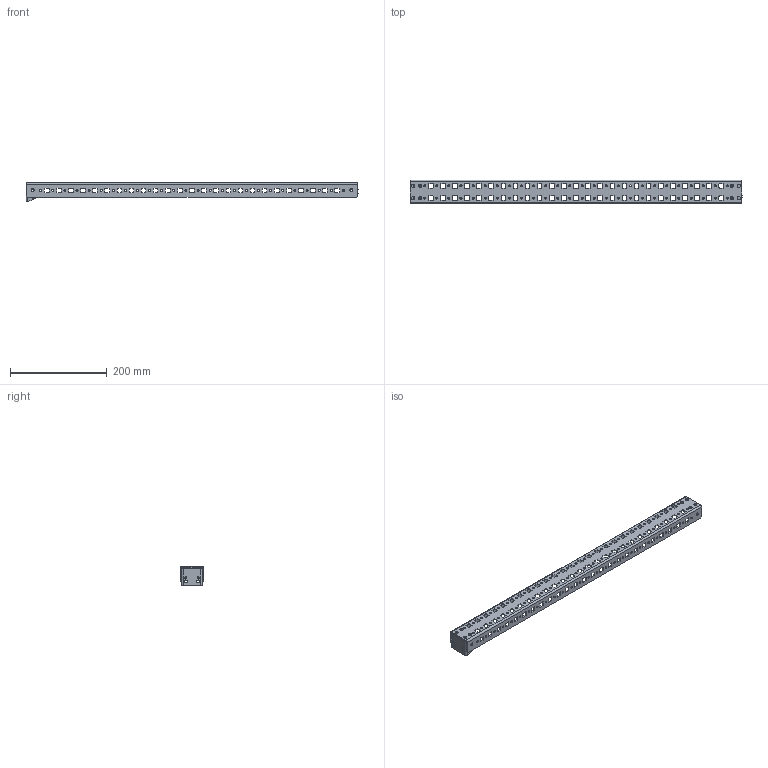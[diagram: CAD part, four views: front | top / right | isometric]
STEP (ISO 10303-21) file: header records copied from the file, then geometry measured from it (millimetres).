
FILE_DESCRIPTION(('STEP AP203'), '1');
FILE_NAME('MG 80.06 L Ðåéêà ìîíòàæíàÿ v2', '2021-05-20T09:11:11', ('UNSPECIFIED'), ('UNSPECIFIED'), 'ASCON STEP Converter 1.3', 'ASCON Math Kernel', '');
FILE_SCHEMA(('CONFIG_CONTROL_DESIGN'));
Length unit declared in the file: millimetre
Products named in the file (3): MG 80.06 L 01.001 Ðåéêà ìîíòàæíàÿ v2; MG 06 L 01.002 Êðîíøòåéí ðåéêè ìîíòàæíîé v2
Assembly tree (3 placements, depth 2):
  (unnamed)
    MG 80.06 L 01.001 Ðåéêà ìîíòàæíàÿ v2
    MG 06 L 01.002 Êðîíøòåéí ðåéêè ìîíòàæíîé v2  x2
Bounding box: 685.55 x 49.15 x 39 mm (x, y, z)
Volume: 133696.3 mm3; surface area: 149610 mm2
Topology: 3 solids, 3 shells, 1062 faces, 3088 edges, 2032 vertices
Faces by surface type: cylinder 572, plane 482, bspline 8
Full cylindrical faces by diameter (mm): 4.2 x128, 6 x4, 6.5 x12
Entity records: 43000 total; most frequent: CARTESIAN_POINT 6706, DIRECTION 5894, ORIENTED_EDGE 5632, EDGE_CURVE 2816, AXIS2_PLACEMENT_3D 2086, VERTEX_POINT 1948, LINE 1722, VECTOR 1722
